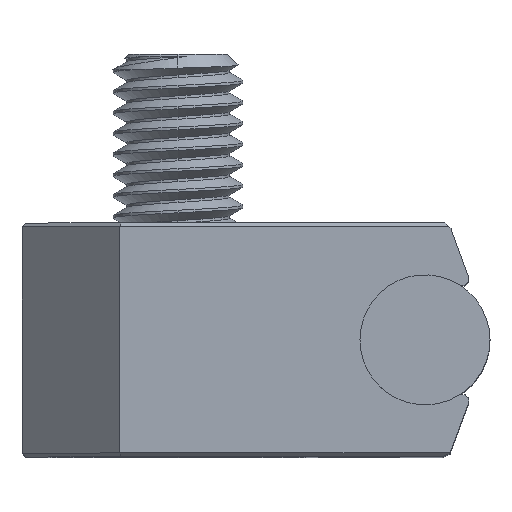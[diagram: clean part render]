
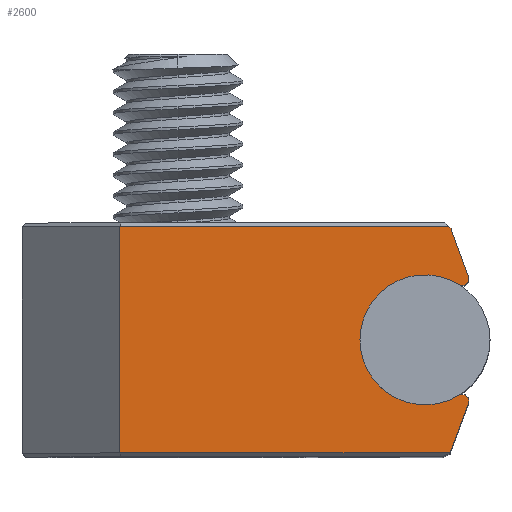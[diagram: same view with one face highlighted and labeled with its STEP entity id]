
A CAD part, top view. The second image highlights one B-rep face of the part: STEP entity #2600.
In plain terms, the highlighted planar face has unit normal (0, 0, 1) as drawn and (0, 0, -1) by its records, which use the part's own axes.
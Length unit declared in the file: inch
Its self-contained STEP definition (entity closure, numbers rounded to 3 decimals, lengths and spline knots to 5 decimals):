
#20 = AXIS2_PLACEMENT_3D ( 'NONE', #4258, #3043, #729 ) ;
#45 = VECTOR ( 'NONE', #687, 39.37008 ) ;
#131 = CARTESIAN_POINT ( 'NONE',  ( 0.41346, -0.16788, -0.3937 ) ) ;
#258 = VECTOR ( 'NONE', #6639, 39.37008 ) ;
#280 = CIRCLE ( 'NONE', #20, 0.00984 ) ;
#406 = EDGE_CURVE ( 'NONE', #1054, #5291, #4287, .T. ) ;
#453 = CIRCLE ( 'NONE', #5832, 0.09843 ) ;
#539 = AXIS2_PLACEMENT_3D ( 'NONE', #6632, #789, #1375 ) ;
#687 = DIRECTION ( 'NONE',  ( -0.707, -0.707, 0. ) ) ;
#729 = DIRECTION ( 'NONE',  ( -1., 0., 0. ) ) ;
#789 = DIRECTION ( 'NONE',  ( 0., 0., -1. ) ) ;
#824 = ORIENTED_EDGE ( 'NONE', *, *, #5831, .F. ) ;
#1054 = VERTEX_POINT ( 'NONE', #1369 ) ;
#1171 = CARTESIAN_POINT ( 'NONE',  ( 0.27559, 0., -0.3937 ) ) ;
#1194 = LINE ( 'NONE', #4793, #258 ) ;
#1369 = CARTESIAN_POINT ( 'NONE',  ( 0.41346, -0.16788, -0.3937 ) ) ;
#1375 = DIRECTION ( 'NONE',  ( -1., 0., 0. ) ) ;
#1536 = EDGE_LOOP ( 'NONE', ( #4689, #4313, #3417, #4833, #2524, #6872, #6799, #4550, #824, #1806 ) ) ;
#1597 = DIRECTION ( 'NONE',  ( 0., -1., 0. ) ) ;
#1806 = ORIENTED_EDGE ( 'NONE', *, *, #6656, .F. ) ;
#1930 = EDGE_CURVE ( 'NONE', #2490, #7027, #4657, .T. ) ;
#2263 = DIRECTION ( 'NONE',  ( 0., 0., 1. ) ) ;
#2289 = AXIS2_PLACEMENT_3D ( 'NONE', #5472, #2496, #7394 ) ;
#2373 = EDGE_CURVE ( 'NONE', #5095, #2861, #2772, .T. ) ;
#2404 = CARTESIAN_POINT ( 'NONE',  ( -0.08858, -0.17126, -0.3937 ) ) ;
#2490 = VERTEX_POINT ( 'NONE', #4686 ) ;
#2496 = DIRECTION ( 'NONE',  ( 0., 0., 1. ) ) ;
#2524 = ORIENTED_EDGE ( 'NONE', *, *, #6178, .F. ) ;
#2600 = ADVANCED_FACE ( 'NONE', ( #5621 ), #3782, .F. ) ;
#2772 = LINE ( 'NONE', #5150, #7668 ) ;
#2858 = CARTESIAN_POINT ( 'NONE',  ( -0.23622, -0.17126, -0.3937 ) ) ;
#2861 = VERTEX_POINT ( 'NONE', #2404 ) ;
#3043 = DIRECTION ( 'NONE',  ( 0., 0., 1. ) ) ;
#3053 = EDGE_CURVE ( 'NONE', #4151, #7134, #7297, .T. ) ;
#3139 = CARTESIAN_POINT ( 'NONE',  ( -0.08858, 0.17126, -0.3937 ) ) ;
#3390 = CARTESIAN_POINT ( 'NONE',  ( 0.43047, 0.09239, -0.3937 ) ) ;
#3417 = ORIENTED_EDGE ( 'NONE', *, *, #2373, .F. ) ;
#3447 = LINE ( 'NONE', #2858, #4536 ) ;
#3677 = EDGE_CURVE ( 'NONE', #5291, #2861, #3447, .T. ) ;
#3678 = DIRECTION ( 'NONE',  ( 0., 0., -1. ) ) ;
#3782 = PLANE ( 'NONE',  #2289 ) ;
#4071 = DIRECTION ( 'NONE',  ( -1., 0., 0. ) ) ;
#4151 = VERTEX_POINT ( 'NONE', #6968 ) ;
#4185 = VERTEX_POINT ( 'NONE', #5869 ) ;
#4258 = CARTESIAN_POINT ( 'NONE',  ( 0.43047, -0.09239, -0.3937 ) ) ;
#4287 = LINE ( 'NONE', #131, #45 ) ;
#4313 = ORIENTED_EDGE ( 'NONE', *, *, #3677, .T. ) ;
#4536 = VECTOR ( 'NONE', #4071, 39.37008 ) ;
#4550 = ORIENTED_EDGE ( 'NONE', *, *, #3053, .F. ) ;
#4657 = CIRCLE ( 'NONE', #5147, 0.00984 ) ;
#4686 = CARTESIAN_POINT ( 'NONE',  ( 0.42534, 0.08399, -0.3937 ) ) ;
#4689 = ORIENTED_EDGE ( 'NONE', *, *, #406, .T. ) ;
#4712 = LINE ( 'NONE', #7659, #7685 ) ;
#4793 = CARTESIAN_POINT ( 'NONE',  ( 0.43972, 0.09575, -0.3937 ) ) ;
#4833 = ORIENTED_EDGE ( 'NONE', *, *, #4868, .F. ) ;
#4868 = EDGE_CURVE ( 'NONE', #4958, #5095, #4712, .T. ) ;
#4958 = VERTEX_POINT ( 'NONE', #5455 ) ;
#5095 = VERTEX_POINT ( 'NONE', #3139 ) ;
#5147 = AXIS2_PLACEMENT_3D ( 'NONE', #3390, #2263, #5776 ) ;
#5150 = CARTESIAN_POINT ( 'NONE',  ( -0.08858, -0.09239, -0.3937 ) ) ;
#5291 = VERTEX_POINT ( 'NONE', #6070 ) ;
#5455 = CARTESIAN_POINT ( 'NONE',  ( 0.41223, 0.17126, -0.3937 ) ) ;
#5472 = CARTESIAN_POINT ( 'NONE',  ( 0.43047, -0.09239, -0.3937 ) ) ;
#5621 = FACE_OUTER_BOUND ( 'NONE', #1536, .T. ) ;
#5776 = DIRECTION ( 'NONE',  ( -1., 0., 0. ) ) ;
#5831 = EDGE_CURVE ( 'NONE', #4185, #4151, #280, .T. ) ;
#5832 = AXIS2_PLACEMENT_3D ( 'NONE', #7248, #3678, #6772 ) ;
#5869 = CARTESIAN_POINT ( 'NONE',  ( 0.43972, -0.09575, -0.3937 ) ) ;
#5930 = LINE ( 'NONE', #6630, #6884 ) ;
#6070 = CARTESIAN_POINT ( 'NONE',  ( 0.41009, -0.17126, -0.3937 ) ) ;
#6178 = EDGE_CURVE ( 'NONE', #7027, #4958, #1194, .T. ) ;
#6502 = CARTESIAN_POINT ( 'NONE',  ( 0.43972, 0.09575, -0.3937 ) ) ;
#6630 = CARTESIAN_POINT ( 'NONE',  ( 0.41346, -0.16788, -0.3937 ) ) ;
#6632 = CARTESIAN_POINT ( 'NONE',  ( 0.37402, 0., -0.3937 ) ) ;
#6639 = DIRECTION ( 'NONE',  ( -0.342, 0.94, 0. ) ) ;
#6656 = EDGE_CURVE ( 'NONE', #1054, #4185, #5930, .T. ) ;
#6670 = DIRECTION ( 'NONE',  ( 0.342, 0.94, 0. ) ) ;
#6772 = DIRECTION ( 'NONE',  ( -1., 0., 0. ) ) ;
#6799 = ORIENTED_EDGE ( 'NONE', *, *, #7204, .F. ) ;
#6872 = ORIENTED_EDGE ( 'NONE', *, *, #1930, .F. ) ;
#6884 = VECTOR ( 'NONE', #6670, 39.37008 ) ;
#6968 = CARTESIAN_POINT ( 'NONE',  ( 0.42534, -0.08399, -0.3937 ) ) ;
#7023 = DIRECTION ( 'NONE',  ( -1., 0., 0. ) ) ;
#7027 = VERTEX_POINT ( 'NONE', #6502 ) ;
#7134 = VERTEX_POINT ( 'NONE', #1171 ) ;
#7204 = EDGE_CURVE ( 'NONE', #7134, #2490, #453, .T. ) ;
#7248 = CARTESIAN_POINT ( 'NONE',  ( 0.37402, 0., -0.3937 ) ) ;
#7297 = CIRCLE ( 'NONE', #539, 0.09843 ) ;
#7394 = DIRECTION ( 'NONE',  ( 1., 0., 0. ) ) ;
#7659 = CARTESIAN_POINT ( 'NONE',  ( 0.43047, 0.17126, -0.3937 ) ) ;
#7668 = VECTOR ( 'NONE', #1597, 39.37008 ) ;
#7685 = VECTOR ( 'NONE', #7023, 39.37008 ) ;
